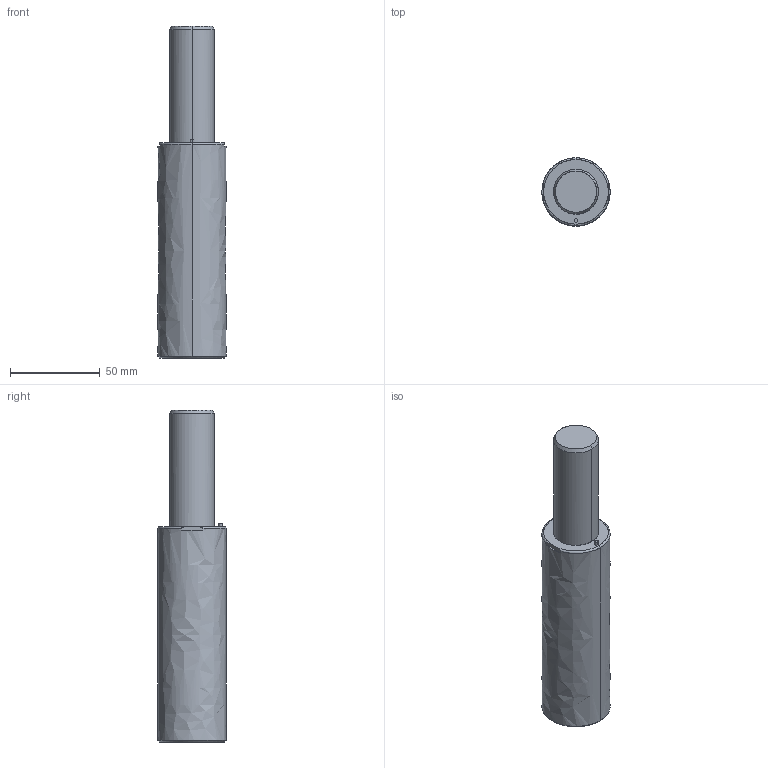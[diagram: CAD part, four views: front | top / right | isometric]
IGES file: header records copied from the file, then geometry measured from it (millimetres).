
Global section: file name: E:\UnigraphicsGraphicData\MISUMI_PRESS-PARTS\IGES\3d_gsx38-63_03970_r00.igs; native system: NX V5.0; preprocessor: UGS NX IGES V5.0; author: MISUMI; date: 20110105.160826; units: millimetre
Bounding box: 38 x 38 x 185 mm (x, y, z)
Surface area: 22820 mm2 (no closed solid volume)
Topology: 0 solids, 0 shells, 59 faces, 414 edges, 406 vertices
Faces by surface type: bspline 59
